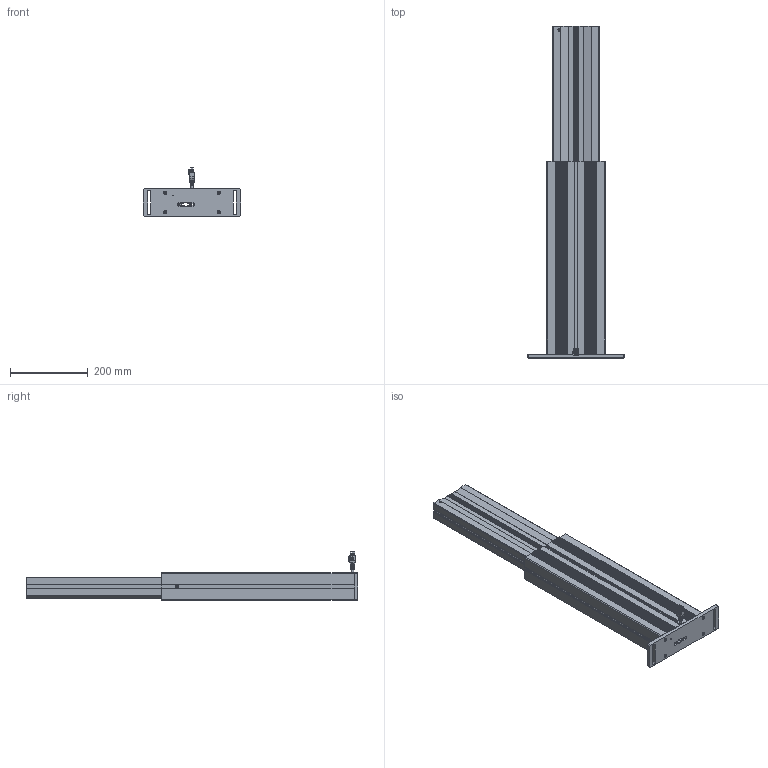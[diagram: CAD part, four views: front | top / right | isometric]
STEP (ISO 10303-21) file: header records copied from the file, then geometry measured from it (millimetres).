
FILE_DESCRIPTION(/* description */ ('Unknown'),/* implementation_level */ '2;1');
FILE_NAME(/* name */ '902.01023_00_ausgefahren',/* time_stamp */ '2020-02-05T16:27:03+01:00',/* author */ ('Unknown'),/* organization */ ('Unknown'),/* preprocessor_version */ 'ST-DEVELOPER v16.7',/* originating_system */ 'DEX',/* authorisation */ $);
FILE_SCHEMA (('AUTOMOTIVE_DESIGN {1 0 10303 214 3 1 1}'));
Products named in the file (10): 902.01023; 126.00138; 119.00315; 119.00314; 142.00166; 124.00201_oa_0; Kabelzugentlastung; 142.00188; 142.00241; 110.00113_oa_1
Assembly tree (14 placements, depth 2):
  902.01023
    126.00138
    119.00315
    119.00314
    142.00166  x4
    124.00201_oa_0
    Kabelzugentlastung
    142.00188  x2
    142.00241  x2
    110.00113_oa_1
Bounding box: 250 x 852.5 x 123.9 mm (x, y, z)
Volume: 2186192.7 mm3; surface area: 1057631.8 mm2
Topology: 12 solids, 12 shells, 2534 faces, 7362 edges, 4893 vertices
Faces by surface type: plane 1460, cylinder 1035, torus 14, cone 10, bspline 9, sphere 6
Full cylindrical faces by diameter (mm): 1.5 x6, 2.459 x1, 2.7 x6, 3.242 x2, 3.4 x1, 4 x4, 5 x4, 5.5 x4, 6 x2, 7 x2, 8 x2, 8.5 x4, 8.7 x4, 30 x2
Entity records: 94040 total; most frequent: CARTESIAN_POINT 15310, ORIENTED_EDGE 14306, DIRECTION 13984, EDGE_CURVE 7153, LINE 4816, VECTOR 4816, VERTEX_POINT 4784, AXIS2_PLACEMENT_3D 4584
